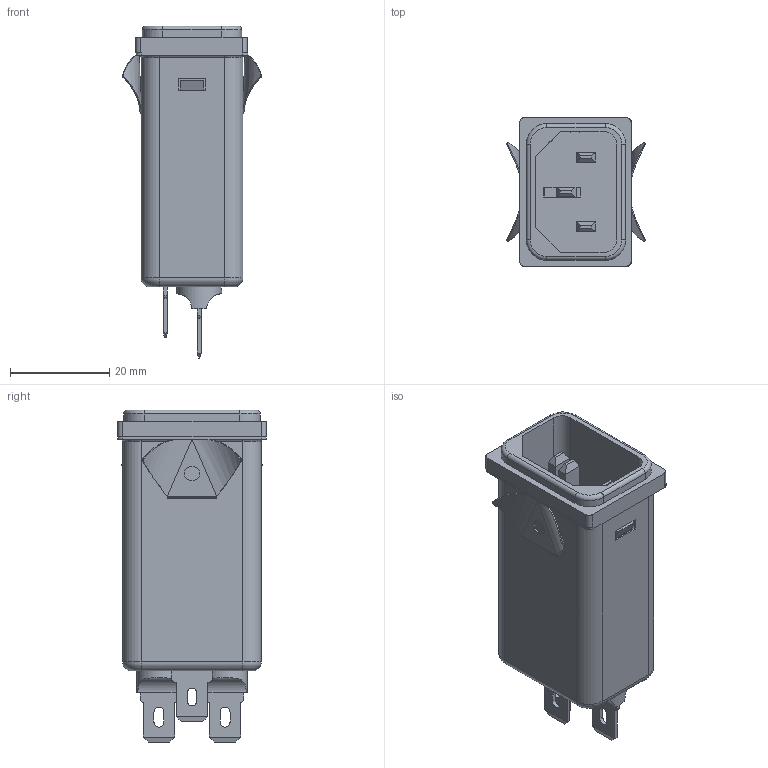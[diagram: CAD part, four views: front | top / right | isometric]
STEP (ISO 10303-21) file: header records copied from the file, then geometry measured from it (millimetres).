
FILE_DESCRIPTION((''),'2;1');
FILE_NAME('D:\_ PRODUCT\FN_PART_FOR_FN9222-XX-07\FN_UPDATE\DB_06 version_Update\3D_inventer\234-177C\FN9222ES1-xx-06.stp','2013-06-06T10:21:53',('sayan.penton'),(''),'Autodesk Inventor 2010','Autodesk Inventor 2010','');
FILE_SCHEMA(('AUTOMOTIVE_DESIGN { 1 0 10303 214 1 1 1 1 }'));
Length unit declared in the file: millimetre
Products named in the file (1): Part3
Bounding box: 28.01 x 29.9 x 66.8 mm (x, y, z)
Volume: 8446.7 mm3; surface area: 20462.3 mm2
Topology: 1 solids, 3 shells, 639 faces, 1875 edges, 1216 vertices
Faces by surface type: plane 452, cylinder 112, bspline 61, torus 14
Full cylindrical faces by diameter (mm): 3 x1, 9 x2
Entity records: 22745 total; most frequent: CARTESIAN_POINT 5060, ORIENTED_EDGE 3738, DIRECTION 3251, EDGE_CURVE 1869, VECTOR 1509, LINE 1509, VERTEX_POINT 1214, AXIS2_PLACEMENT_3D 871
